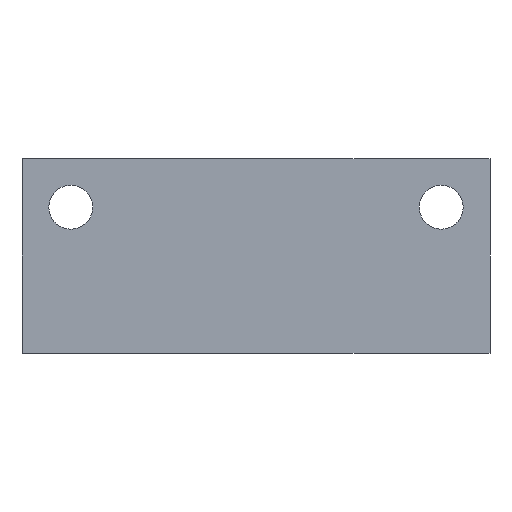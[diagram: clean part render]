
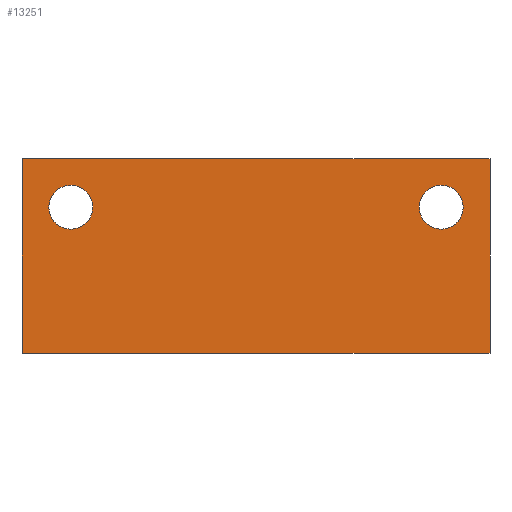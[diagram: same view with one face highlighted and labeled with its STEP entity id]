
A CAD part, front view. The second image highlights one B-rep face of the part: STEP entity #13251.
In plain terms, the highlighted planar face has unit normal (0, -1, 0).
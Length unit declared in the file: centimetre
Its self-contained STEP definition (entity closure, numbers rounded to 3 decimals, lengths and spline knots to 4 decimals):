
#273=CIRCLE('',#13639,0.225);
#325=CIRCLE('',#13978,0.225);
#1058=VERTEX_POINT('',#18177);
#1063=VERTEX_POINT('',#18192);
#1064=VERTEX_POINT('',#18194);
#1736=VERTEX_POINT('',#22409);
#1739=VERTEX_POINT('',#22414);
#1759=VERTEX_POINT('',#22476);
#2373=VECTOR('',#14657,1.);
#3104=VECTOR('',#15789,1.);
#3139=VECTOR('',#15852,1.);
#3140=VECTOR('',#15854,1.);
#3786=LINE('',#18193,#2373);
#4513=LINE('',#22415,#3104);
#4548=LINE('',#22497,#3139);
#4549=LINE('',#22499,#3140);
#5284=EDGE_CURVE('',#1058,#1058,#273,.T.);
#5292=EDGE_CURVE('',#1064,#1063,#3786,.T.);
#6319=EDGE_CURVE('',#1739,#1736,#4513,.T.);
#6347=EDGE_CURVE('',#1759,#1759,#325,.T.);
#6359=EDGE_CURVE('',#1064,#1739,#4548,.T.);
#6360=EDGE_CURVE('',#1736,#1063,#4549,.T.);
#9701=ORIENTED_EDGE('',*,*,#5284,.F.);
#9702=ORIENTED_EDGE('',*,*,#6347,.T.);
#9703=ORIENTED_EDGE('',*,*,#6319,.F.);
#9704=ORIENTED_EDGE('',*,*,#6359,.F.);
#9705=ORIENTED_EDGE('',*,*,#5292,.T.);
#9706=ORIENTED_EDGE('',*,*,#6360,.F.);
#11588=EDGE_LOOP('',(#9701));
#11589=EDGE_LOOP('',(#9702));
#11590=EDGE_LOOP('',(#9703,#9704,#9705,#9706));
#12452=FACE_BOUND('',#11588,.T.);
#12453=FACE_BOUND('',#11589,.T.);
#12454=FACE_BOUND('',#11590,.T.);
#13251=ADVANCED_FACE('',(#12452,#12453,#12454),#26525,.F.);
#13639=AXIS2_PLACEMENT_3D('',#18176,#14645,#14646);
#13978=AXIS2_PLACEMENT_3D('',#22475,#15835,#15836);
#13985=AXIS2_PLACEMENT_3D('',#22500,#15855,$);
#14645=DIRECTION('',(0.,-1.,0.));
#14646=DIRECTION('',(-0.225,0.,0.));
#14657=DIRECTION('',(0.,0.,1.));
#15789=DIRECTION('',(0.,0.,1.));
#15835=DIRECTION('',(0.,1.,0.));
#15836=DIRECTION('',(0.225,0.,0.));
#15852=DIRECTION('',(-1.,0.,0.));
#15854=DIRECTION('',(1.,0.,0.));
#15855=DIRECTION('',(0.,1.,0.));
#18176=CARTESIAN_POINT('',(4.3,0.,0.5));
#18177=CARTESIAN_POINT('',(4.525,0.,0.5));
#18192=CARTESIAN_POINT('',(4.8,0.,1.));
#18193=CARTESIAN_POINT('',(4.8,0.,-1.));
#18194=CARTESIAN_POINT('',(4.8,0.,-1.));
#22409=CARTESIAN_POINT('',(0.,0.,1.));
#22414=CARTESIAN_POINT('',(0.,0.,-1.));
#22415=CARTESIAN_POINT('',(0.,0.,-1.));
#22475=CARTESIAN_POINT('',(0.5,0.,0.5));
#22476=CARTESIAN_POINT('',(0.275,0.,0.5));
#22497=CARTESIAN_POINT('',(1.8,0.,-1.));
#22499=CARTESIAN_POINT('',(0.,0.,1.));
#22500=CARTESIAN_POINT('',(0.9,0.,0.));
#26525=PLANE('',#13985);
